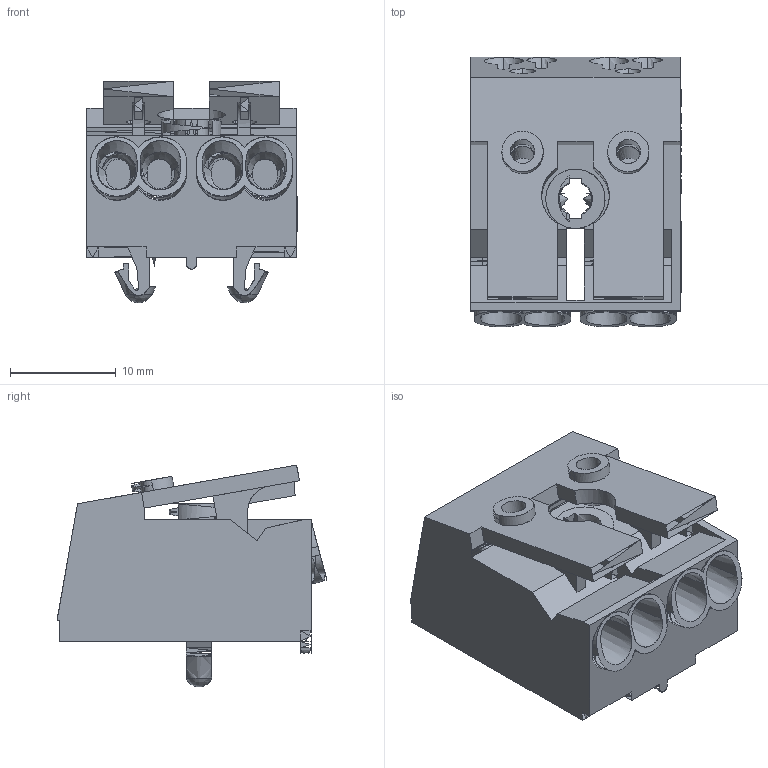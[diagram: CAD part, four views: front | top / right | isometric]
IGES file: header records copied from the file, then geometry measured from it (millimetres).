
Global section: file name: C:\Programme\core_technologie\in\005-U05-08.igs; native system: CT CoreTechnologie 3D Evolution; preprocessor: 2006; author: assmuth; date: 090123.110411; units: millimetre
Bounding box: 19.9 x 25.53 x 20.98 mm (x, y, z)
Surface area: 3811.8 mm2 (no closed solid volume)
Topology: 0 solids, 0 shells, 344 faces, 1768 edges, 1718 vertices
Faces by surface type: bspline 344
